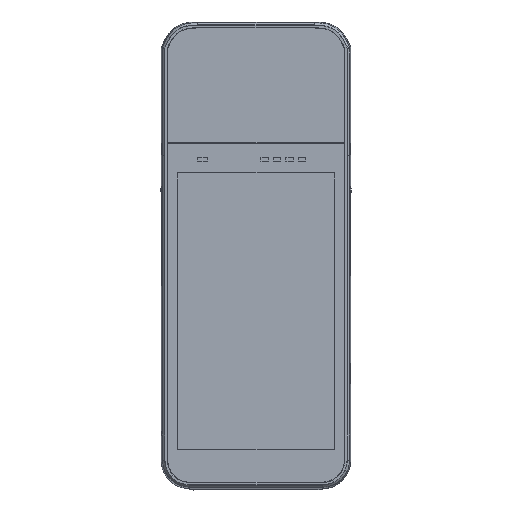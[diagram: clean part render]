
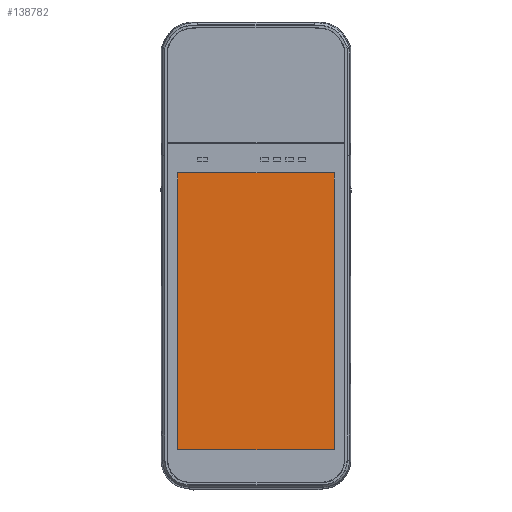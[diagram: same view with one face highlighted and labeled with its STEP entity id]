
A CAD part, top view. The second image highlights one B-rep face of the part: STEP entity #138782.
In plain terms, the highlighted planar face has unit normal (0, 0, 1).
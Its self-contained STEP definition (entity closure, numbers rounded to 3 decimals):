
#37710=DIRECTION('',(-1.,0.,0.));
#37711=VECTOR('',#37710,62.9);
#37712=CARTESIAN_POINT('',(31.45,33.065,0.75));
#37713=LINE('',#37712,#37711);
#37714=DIRECTION('',(0.,1.,0.));
#37715=VECTOR('',#37714,111.2);
#37716=CARTESIAN_POINT('',(31.45,-78.135,0.75));
#37717=LINE('',#37716,#37715);
#37718=DIRECTION('',(1.,0.,0.));
#37719=VECTOR('',#37718,62.9);
#37720=CARTESIAN_POINT('',(-31.45,-78.135,0.75));
#37721=LINE('',#37720,#37719);
#37722=DIRECTION('',(0.,-1.,0.));
#37723=VECTOR('',#37722,111.2);
#37724=CARTESIAN_POINT('',(-31.45,33.065,0.75));
#37725=LINE('',#37724,#37723);
#50080=CARTESIAN_POINT('',(31.45,33.065,0.75));
#50081=CARTESIAN_POINT('',(-31.45,33.065,0.75));
#50082=VERTEX_POINT('',#50080);
#50083=VERTEX_POINT('',#50081);
#50084=CARTESIAN_POINT('',(-31.45,-78.135,0.75));
#50085=VERTEX_POINT('',#50084);
#50086=CARTESIAN_POINT('',(31.45,-78.135,0.75));
#50087=VERTEX_POINT('',#50086);
#138767=CARTESIAN_POINT('',(0.,0.,0.75));
#138768=DIRECTION('',(0.,0.,1.));
#138769=DIRECTION('',(1.,0.,0.));
#138770=AXIS2_PLACEMENT_3D('',#138767,#138768,#138769);
#138771=PLANE('',#138770);
#138773=ORIENTED_EDGE('',*,*,#138772,.F.);
#138775=ORIENTED_EDGE('',*,*,#138774,.F.);
#138777=ORIENTED_EDGE('',*,*,#138776,.F.);
#138779=ORIENTED_EDGE('',*,*,#138778,.F.);
#138780=EDGE_LOOP('',(#138773,#138775,#138777,#138779));
#138781=FACE_OUTER_BOUND('',#138780,.F.);
#138772=EDGE_CURVE('',#50082,#50083,#37713,.T.);
#138774=EDGE_CURVE('',#50087,#50082,#37717,.T.);
#138776=EDGE_CURVE('',#50085,#50087,#37721,.T.);
#138778=EDGE_CURVE('',#50083,#50085,#37725,.T.);
#138782=ADVANCED_FACE('',(#138781),#138771,.T.);
